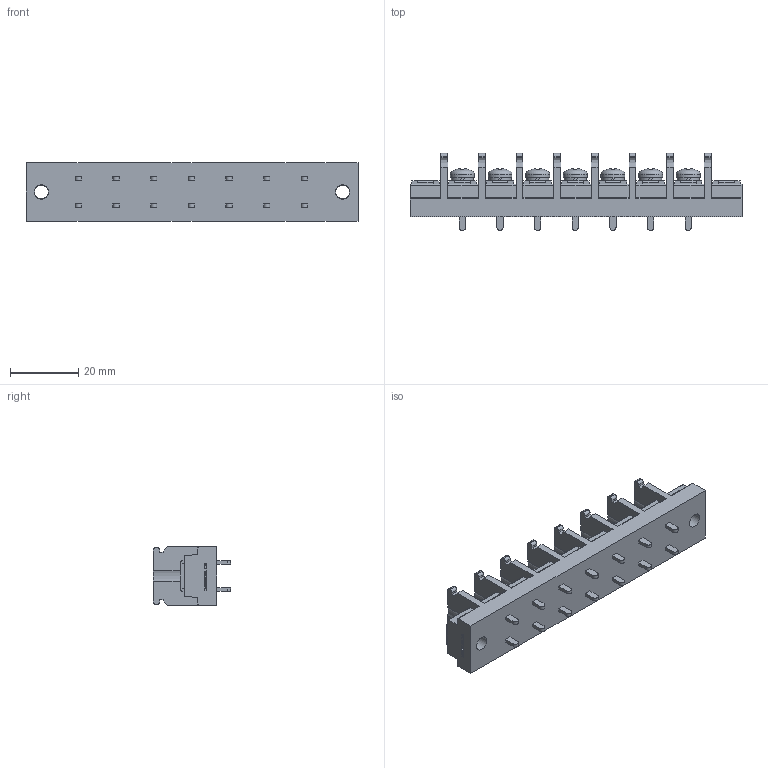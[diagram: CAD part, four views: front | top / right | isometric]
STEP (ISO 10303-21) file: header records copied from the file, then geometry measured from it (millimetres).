
FILE_DESCRIPTION(/* description */ ('Alibre Inc.'),/* implementation_level */ '2;1');
FILE_NAME(/* name */ 'export0',/* time_stamp */ '2015-10-19T19:52:16+09:00',/* author */ (''),/* organization */ (''),/* preprocessor_version */ 'ST-DEVELOPER v14',/* originating_system */ 'Alibre',/* authorisation */ '');
FILE_SCHEMA (('CONFIG_CONTROL_DESIGN'));
Length unit declared in the file: centimetre
Products named in the file (1): ID_1
Bounding box: 97 x 22.5 x 17 mm (x, y, z)
Volume: 17483.8 mm3; surface area: 9981.1 mm2
Topology: 1 solids, 1 shells, 1004 faces, 2771 edges, 1841 vertices
Faces by surface type: plane 710, cylinder 141, bspline 104, cone 28, torus 14, sphere 7
Full cylindrical faces by diameter (mm): 4 x9, 4.2 x2, 6.5 x7, 7 x7
Entity records: 30925 total; most frequent: CARTESIAN_POINT 6658, ORIENTED_EDGE 5432, DIRECTION 3989, EDGE_CURVE 2716, VECTOR 1949, LINE 1949, VERTEX_POINT 1818, AXIS2_PLACEMENT_3D 1363
